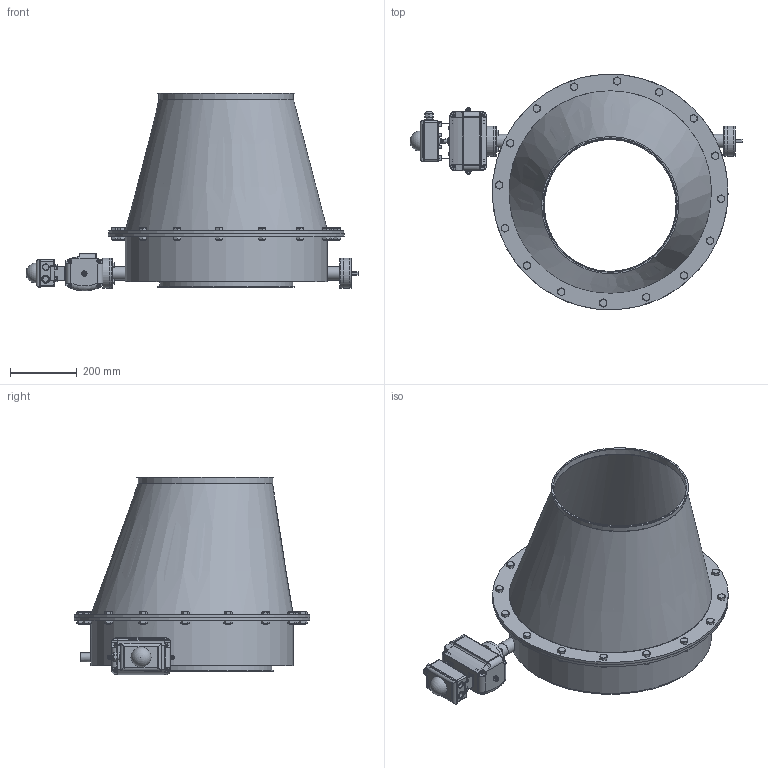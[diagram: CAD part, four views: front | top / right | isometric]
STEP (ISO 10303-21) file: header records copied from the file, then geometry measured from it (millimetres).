
FILE_DESCRIPTION((''),'2;1');
FILE_NAME('U:\Wolfgang\Marcel-3D\fertig\Kapitel 8\4021218.stp','2012-01-13T11:23:43',('iwienholt'),(''),'Autodesk Inventor 2010','Autodesk Inventor 2010','');
FILE_SCHEMA(('AUTOMOTIVE_DESIGN { 1 0 10303 214 1 1 1 1 }'));
Length unit declared in the file: millimetre
Products named in the file (27): 4021218; 4021218-1; 06081301; wellenendeD20; Buchse D20 90-50; LagerdeckelD20; PendelkugellagerD20; EndstückD20; WellenendeD20 mit Antrieb; DIN EN ISO 4018 M8x35; Pneumatischer SchwenkantriebS85D-2; Body; roter Verschluss; A1 Schwenkantrieb S85D; Body S085D; DIN EN ISO 4018 M5x10; DIN 125-1 A A 13; End Cap L85; End Cap R85; DIN 125-1 A A 8,4; DIN 916 M8  x  40; DIN 555 - ersetzt durch DIN EN 24034 M8; DIN EN ISO 4762 M6 x 12; Halterung; Deckel2; DIN EN ISO 4018 M14x30; DIN 555 - ersetzt durch DIN EN 24034 M14
Assembly tree (81 placements, depth 5):
  4021218
    4021218-1
    06081301  x2
    wellenendeD20
      Buchse D20 90-50
      LagerdeckelD20
      PendelkugellagerD20
      EndstückD20
    WellenendeD20 mit Antrieb
      Buchse D20 90-50
      PendelkugellagerD20
      DIN EN ISO 4018 M8x35  x4
      Pneumatischer SchwenkantriebS85D-2
        Body
        roter Verschluss
        A1 Schwenkantrieb S85D
          Body S085D
          DIN EN ISO 4018 M5x10  x4
          DIN 125-1 A A 13  x2
          End Cap L85
          End Cap R85
          DIN 125-1 A A 8,4  x2
          DIN 916 M8  x  40  x2
          DIN 555 - ersetzt durch DIN EN 24034 M8  x2
          DIN EN ISO 4762 M6 x 12  x8
        Halterung  x2
        DIN EN ISO 4018 M5x10  x4
        Deckel2
    DIN EN ISO 4018 M14x30  x16
    DIN 555 - ersetzt durch DIN EN 24034 M14  x16
Bounding box: 992.5 x 704.87 x 591.23 mm (x, y, z)
Volume: 6749877.2 mm3; surface area: 3287767.8 mm2
Topology: 79 solids, 79 shells, 1528 faces, 3476 edges, 2189 vertices
Faces by surface type: plane 770, cone 306, cylinder 223, bspline 189, torus 39, sphere 1
Full cylindrical faces by diameter (mm): 3.242 x4, 5 x10, 6 x8, 6.647 x4, 8 x10, 8.376 x1, 8.4 x2, 10 x8, 11.9 x2, 12.5 x1, 13 x5, 14 x17, 16 x2, 17 x1, 17.79 x2, 18 x3, 20.5 x2, 22 x1, 22.4 x1, 23 x2, 24 x3, 26.4 x1, 28.5 x1, 30 x3, 36 x2, 40 x5, 47 x2, 90 x5, 398 x1, 402 x1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
Entity records: 27535 total; most frequent: CARTESIAN_POINT 11618, DIRECTION 3134, ORIENTED_EDGE 2778, EDGE_CURVE 1389, AXIS2_PLACEMENT_3D 1234, EDGE_LOOP 1015, VERTEX_POINT 980, FACE_OUTER_BOUND 684
